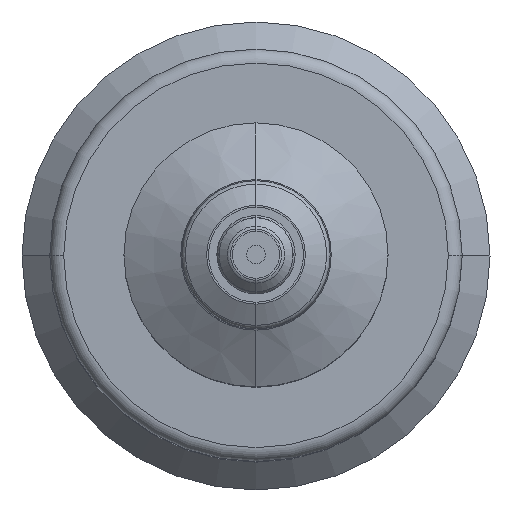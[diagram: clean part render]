
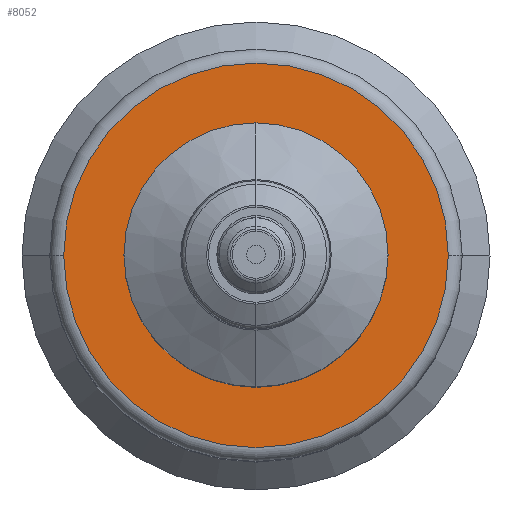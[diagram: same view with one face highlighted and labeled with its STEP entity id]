
A CAD part, top view. The second image highlights one B-rep face of the part: STEP entity #8052.
In plain terms, the highlighted planar face has unit normal (0, 0, 1).
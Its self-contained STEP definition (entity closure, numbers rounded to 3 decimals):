
#90 = CIRCLE ( 'NONE', #2733, 41.5 ) ;
#409 = EDGE_CURVE ( 'NONE', #763, #809, #12520, .T. ) ;
#763 = VERTEX_POINT ( 'NONE', #5313 ) ;
#809 = VERTEX_POINT ( 'NONE', #5258 ) ;
#1401 = CARTESIAN_POINT ( 'NONE',  ( -41.5, 0., 130. ) ) ;
#1561 = CARTESIAN_POINT ( 'NONE',  ( 41.5, 0., 130. ) ) ;
#1572 = EDGE_CURVE ( 'NONE', #5420, #5133, #12636, .T. ) ;
#2725 = AXIS2_PLACEMENT_3D ( 'NONE', #5159, #5064, #5065 ) ;
#2733 = AXIS2_PLACEMENT_3D ( 'NONE', #4904, #4901, #4900 ) ;
#3136 = AXIS2_PLACEMENT_3D ( 'NONE', #5635, #5636, #5631 ) ;
#4195 = ORIENTED_EDGE ( 'NONE', *, *, #8295, .F. ) ;
#4242 = ORIENTED_EDGE ( 'NONE', *, *, #409, .F. ) ;
#4256 = ORIENTED_EDGE ( 'NONE', *, *, #6850, .F. ) ;
#4270 = ORIENTED_EDGE ( 'NONE', *, *, #1572, .F. ) ;
#4900 = DIRECTION ( 'NONE',  ( 1., 0., 0. ) ) ;
#4901 = DIRECTION ( 'NONE',  ( 0., 0., -1. ) ) ;
#4904 = CARTESIAN_POINT ( 'NONE',  ( 0., 0., 130. ) ) ;
#5064 = DIRECTION ( 'NONE',  ( 0., 0., 1. ) ) ;
#5065 = DIRECTION ( 'NONE',  ( 1., 0., 0. ) ) ;
#5133 = VERTEX_POINT ( 'NONE', #1401 ) ;
#5159 = CARTESIAN_POINT ( 'NONE',  ( 0., 0., 130. ) ) ;
#5258 = CARTESIAN_POINT ( 'NONE',  ( -28.5, 0., 130. ) ) ;
#5313 = CARTESIAN_POINT ( 'NONE',  ( 28.5, 0., 130. ) ) ;
#5420 = VERTEX_POINT ( 'NONE', #1561 ) ;
#5631 = DIRECTION ( 'NONE',  ( 1., 0., 0. ) ) ;
#5635 = CARTESIAN_POINT ( 'NONE',  ( 0., 0., 130. ) ) ;
#5636 = DIRECTION ( 'NONE',  ( 0., 0., -1. ) ) ;
#5637 = PLANE ( 'NONE',  #3136 ) ;
#6366 = FACE_BOUND ( 'NONE', #9641, .T. ) ;
#6367 = FACE_OUTER_BOUND ( 'NONE', #9944, .T. ) ;
#6850 = EDGE_CURVE ( 'NONE', #5133, #5420, #90, .T. ) ;
#7415 = CIRCLE ( 'NONE', #8642, 28.5 ) ;
#8052 = ADVANCED_FACE ( 'NONE', ( #6366, #6367 ), #5637, .F. ) ;
#8239 = DIRECTION ( 'NONE',  ( 1., 0., 0. ) ) ;
#8240 = DIRECTION ( 'NONE',  ( 0., 0., 1. ) ) ;
#8241 = CARTESIAN_POINT ( 'NONE',  ( 0., 0., 130. ) ) ;
#8295 = EDGE_CURVE ( 'NONE', #809, #763, #7415, .T. ) ;
#8642 = AXIS2_PLACEMENT_3D ( 'NONE', #8241, #8240, #8239 ) ;
#9641 = EDGE_LOOP ( 'NONE', ( #4195, #4242 ) ) ;
#9944 = EDGE_LOOP ( 'NONE', ( #4270, #4256 ) ) ;
#10484 = DIRECTION ( 'NONE',  ( 1., 0., 0. ) ) ;
#10557 = DIRECTION ( 'NONE',  ( 0., 0., -1. ) ) ;
#10843 = CARTESIAN_POINT ( 'NONE',  ( 0., 0., 130. ) ) ;
#10944 = AXIS2_PLACEMENT_3D ( 'NONE', #10843, #10557, #10484 ) ;
#12520 = CIRCLE ( 'NONE', #2725, 28.5 ) ;
#12636 = CIRCLE ( 'NONE', #10944, 41.5 ) ;
